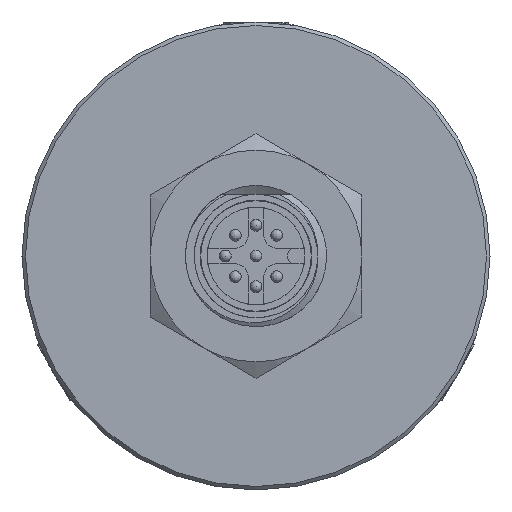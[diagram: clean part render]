
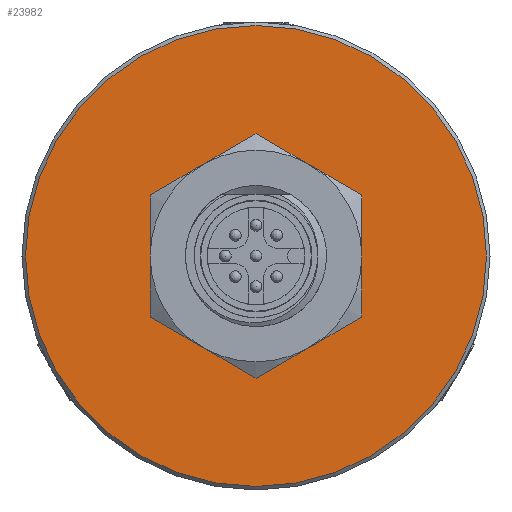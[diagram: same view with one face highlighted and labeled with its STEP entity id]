
A CAD part, left-side view. The second image highlights one B-rep face of the part: STEP entity #23982.
In plain terms, the highlighted planar face has unit normal (-1, 0, 0).
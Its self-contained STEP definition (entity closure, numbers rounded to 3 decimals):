
#570 = AXIS2_PLACEMENT_3D ( 'NONE', #27921, #15989, #25549 ) ;
#4680 = DIRECTION ( 'NONE',  ( -1., 0., 0. ) ) ;
#4907 = EDGE_LOOP ( 'NONE', ( #29243 ) ) ;
#7133 = AXIS2_PLACEMENT_3D ( 'NONE', #22801, #25122, #24973 ) ;
#8698 = AXIS2_PLACEMENT_3D ( 'NONE', #11837, #4680, #13883 ) ;
#10523 = EDGE_LOOP ( 'NONE', ( #28549 ) ) ;
#10781 = FACE_BOUND ( 'NONE', #4907, .T. ) ;
#11448 = CARTESIAN_POINT ( 'NONE',  ( -95.95, 0., 77.87 ) ) ;
#11837 = CARTESIAN_POINT ( 'NONE',  ( -95.95, 0., 71.87 ) ) ;
#13883 = DIRECTION ( 'NONE',  ( 0., 0., 1. ) ) ;
#14283 = CARTESIAN_POINT ( 'NONE',  ( -95.95, 0., 52.27 ) ) ;
#15490 = FACE_OUTER_BOUND ( 'NONE', #10523, .T. ) ;
#15989 = DIRECTION ( 'NONE',  ( 1., 0., 0. ) ) ;
#16670 = CIRCLE ( 'NONE', #7133, 19.6 ) ;
#18365 = PLANE ( 'NONE',  #570 ) ;
#18919 = VERTEX_POINT ( 'NONE', #14283 ) ;
#21135 = EDGE_CURVE ( 'NONE', #18919, #18919, #16670, .T. ) ;
#22801 = CARTESIAN_POINT ( 'NONE',  ( -95.95, 0., 71.87 ) ) ;
#22965 = VERTEX_POINT ( 'NONE', #11448 ) ;
#23982 = ADVANCED_FACE ( 'NONE', ( #15490, #10781 ), #18365, .F. ) ;
#24973 = DIRECTION ( 'NONE',  ( 0., 0., -1. ) ) ;
#25122 = DIRECTION ( 'NONE',  ( -1., 0., 0. ) ) ;
#25549 = DIRECTION ( 'NONE',  ( 0., 0., -1. ) ) ;
#27349 = EDGE_CURVE ( 'NONE', #22965, #22965, #27774, .T. ) ;
#27774 = CIRCLE ( 'NONE', #8698, 6. ) ;
#27921 = CARTESIAN_POINT ( 'NONE',  ( -95.95, 6., 71.87 ) ) ;
#28549 = ORIENTED_EDGE ( 'NONE', *, *, #21135, .T. ) ;
#29243 = ORIENTED_EDGE ( 'NONE', *, *, #27349, .F. ) ;
